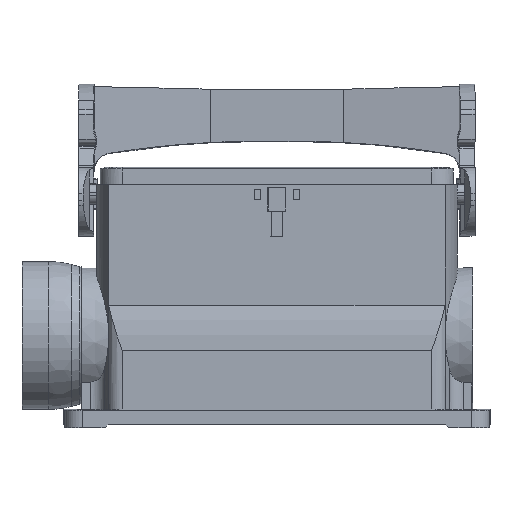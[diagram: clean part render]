
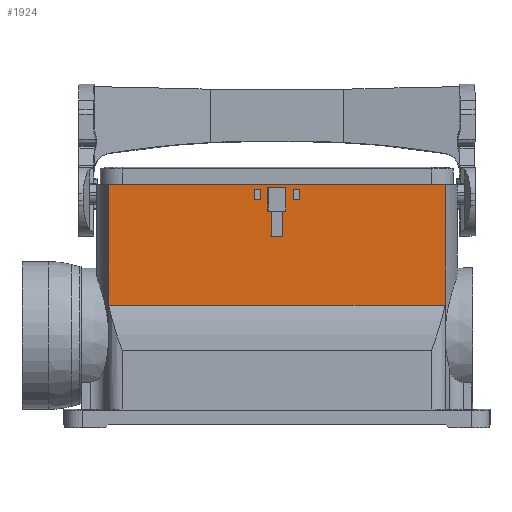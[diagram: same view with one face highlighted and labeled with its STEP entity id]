
A CAD part, front view. The second image highlights one B-rep face of the part: STEP entity #1924.
In plain terms, the highlighted planar face has unit normal (0, -1, 0).
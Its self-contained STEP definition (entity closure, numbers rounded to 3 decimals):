
#897=FACE_BOUND('',#3116,.T.);
#898=FACE_BOUND('',#3117,.T.);
#899=FACE_BOUND('',#3118,.T.);
#900=FACE_BOUND('',#3119,.T.);
#1490=PLANE('',#13459);
#1924=ADVANCED_FACE('',(#897,#898,#899,#900),#1490,.T.);
#3116=EDGE_LOOP('',(#4635,#4636,#4637,#4638));
#3117=EDGE_LOOP('',(#4639,#4640,#4641,#4642));
#3118=EDGE_LOOP('',(#4643,#4644,#4645,#4646,#4647,#4648,#4649,#4650));
#3119=EDGE_LOOP('',(#4651,#4652,#4653,#4654));
#4635=ORIENTED_EDGE('',*,*,#8828,.F.);
#4636=ORIENTED_EDGE('',*,*,#8829,.F.);
#4637=ORIENTED_EDGE('',*,*,#8830,.F.);
#4638=ORIENTED_EDGE('',*,*,#8831,.F.);
#4639=ORIENTED_EDGE('',*,*,#8832,.F.);
#4640=ORIENTED_EDGE('',*,*,#8833,.T.);
#4641=ORIENTED_EDGE('',*,*,#8834,.T.);
#4642=ORIENTED_EDGE('',*,*,#8835,.T.);
#4643=ORIENTED_EDGE('',*,*,#8836,.T.);
#4644=ORIENTED_EDGE('',*,*,#8837,.T.);
#4645=ORIENTED_EDGE('',*,*,#8838,.T.);
#4646=ORIENTED_EDGE('',*,*,#8839,.T.);
#4647=ORIENTED_EDGE('',*,*,#8840,.T.);
#4648=ORIENTED_EDGE('',*,*,#8841,.T.);
#4649=ORIENTED_EDGE('',*,*,#8842,.T.);
#4650=ORIENTED_EDGE('',*,*,#8843,.T.);
#4651=ORIENTED_EDGE('',*,*,#8844,.F.);
#4652=ORIENTED_EDGE('',*,*,#8845,.F.);
#4653=ORIENTED_EDGE('',*,*,#8846,.F.);
#4654=ORIENTED_EDGE('',*,*,#8847,.F.);
#7505=VERTEX_POINT('',#19627);
#7506=VERTEX_POINT('',#19628);
#7507=VERTEX_POINT('',#19630);
#7508=VERTEX_POINT('',#19632);
#7509=VERTEX_POINT('',#19635);
#7510=VERTEX_POINT('',#19636);
#7511=VERTEX_POINT('',#19638);
#7512=VERTEX_POINT('',#19640);
#7513=VERTEX_POINT('',#19643);
#7514=VERTEX_POINT('',#19644);
#7515=VERTEX_POINT('',#19646);
#7516=VERTEX_POINT('',#19648);
#7517=VERTEX_POINT('',#19650);
#7518=VERTEX_POINT('',#19652);
#7519=VERTEX_POINT('',#19654);
#7520=VERTEX_POINT('',#19656);
#7521=VERTEX_POINT('',#19659);
#7522=VERTEX_POINT('',#19660);
#7523=VERTEX_POINT('',#19662);
#7524=VERTEX_POINT('',#19664);
#8828=EDGE_CURVE('',#7505,#7506,#11281,.T.);
#8829=EDGE_CURVE('',#7507,#7505,#11282,.T.);
#8830=EDGE_CURVE('',#7508,#7507,#11283,.T.);
#8831=EDGE_CURVE('',#7506,#7508,#11284,.T.);
#8832=EDGE_CURVE('',#7509,#7510,#11285,.T.);
#8833=EDGE_CURVE('',#7509,#7511,#11286,.T.);
#8834=EDGE_CURVE('',#7511,#7512,#11287,.T.);
#8835=EDGE_CURVE('',#7512,#7510,#11288,.T.);
#8836=EDGE_CURVE('',#7513,#7514,#11289,.T.);
#8837=EDGE_CURVE('',#7514,#7515,#11290,.T.);
#8838=EDGE_CURVE('',#7515,#7516,#11291,.T.);
#8839=EDGE_CURVE('',#7516,#7517,#11292,.T.);
#8840=EDGE_CURVE('',#7517,#7518,#11293,.T.);
#8841=EDGE_CURVE('',#7518,#7519,#11294,.T.);
#8842=EDGE_CURVE('',#7519,#7520,#11295,.T.);
#8843=EDGE_CURVE('',#7520,#7513,#11296,.T.);
#8844=EDGE_CURVE('',#7521,#7522,#11297,.T.);
#8845=EDGE_CURVE('',#7523,#7521,#11298,.T.);
#8846=EDGE_CURVE('',#7524,#7523,#11299,.T.);
#8847=EDGE_CURVE('',#7522,#7524,#11300,.T.);
#11281=LINE('',#19626,#12279);
#11282=LINE('',#19629,#12280);
#11283=LINE('',#19631,#12281);
#11284=LINE('',#19633,#12282);
#11285=LINE('',#19634,#12283);
#11286=LINE('',#19637,#12284);
#11287=LINE('',#19639,#12285);
#11288=LINE('',#19641,#12286);
#11289=LINE('',#19642,#12287);
#11290=LINE('',#19645,#12288);
#11291=LINE('',#19647,#12289);
#11292=LINE('',#19649,#12290);
#11293=LINE('',#19651,#12291);
#11294=LINE('',#19653,#12292);
#11295=LINE('',#19655,#12293);
#11296=LINE('',#19657,#12294);
#11297=LINE('',#19658,#12295);
#11298=LINE('',#19661,#12296);
#11299=LINE('',#19663,#12297);
#11300=LINE('',#19665,#12298);
#12279=VECTOR('',#15290,1.);
#12280=VECTOR('',#15291,1.);
#12281=VECTOR('',#15292,1.);
#12282=VECTOR('',#15293,1.);
#12283=VECTOR('',#15294,1.);
#12284=VECTOR('',#15295,1.);
#12285=VECTOR('',#15296,1.);
#12286=VECTOR('',#15297,1.);
#12287=VECTOR('',#15298,1.);
#12288=VECTOR('',#15299,1.);
#12289=VECTOR('',#15300,1.);
#12290=VECTOR('',#15301,1.);
#12291=VECTOR('',#15302,1.);
#12292=VECTOR('',#15303,1.);
#12293=VECTOR('',#15304,1.);
#12294=VECTOR('',#15305,1.);
#12295=VECTOR('',#15306,1.);
#12296=VECTOR('',#15307,1.);
#12297=VECTOR('',#15308,1.);
#12298=VECTOR('',#15309,1.);
#13459=AXIS2_PLACEMENT_3D('',#19666,#15310,#15311);
#15290=DIRECTION('',(0.,0.,1.));
#15291=DIRECTION('',(1.,0.,0.));
#15292=DIRECTION('',(0.,0.,-1.));
#15293=DIRECTION('',(-1.,0.,0.));
#15294=DIRECTION('',(-1.,0.,0.));
#15295=DIRECTION('',(0.,0.,1.));
#15296=DIRECTION('',(-1.,0.,0.));
#15297=DIRECTION('',(0.,0.,-1.));
#15298=DIRECTION('',(0.017,0.,-1.));
#15299=DIRECTION('',(-1.,0.,0.));
#15300=DIRECTION('',(0.,0.,-1.));
#15301=DIRECTION('',(-1.,0.,0.));
#15302=DIRECTION('',(0.,0.,1.));
#15303=DIRECTION('',(-1.,0.,0.));
#15304=DIRECTION('',(0.017,0.,1.));
#15305=DIRECTION('',(1.,0.,0.));
#15306=DIRECTION('',(1.,0.,0.));
#15307=DIRECTION('',(0.,0.,-1.));
#15308=DIRECTION('',(-1.,0.,0.));
#15309=DIRECTION('',(0.,0.,1.));
#15310=DIRECTION('',(0.,-1.,0.));
#15311=DIRECTION('',(-1.,0.,0.));
#19626=CARTESIAN_POINT('',(-5.5,-22.5,5.7));
#19627=CARTESIAN_POINT('',(-5.5,-22.5,0.6));
#19628=CARTESIAN_POINT('',(-5.5,-22.5,4.));
#19629=CARTESIAN_POINT('',(-7.7,-22.5,0.6));
#19630=CARTESIAN_POINT('',(-7.7,-22.5,0.6));
#19631=CARTESIAN_POINT('',(-7.7,-22.5,4.));
#19632=CARTESIAN_POINT('',(-7.7,-22.5,4.));
#19633=CARTESIAN_POINT('',(-5.5,-22.5,4.));
#19634=CARTESIAN_POINT('',(56.85,-22.5,-35.001));
#19635=CARTESIAN_POINT('',(56.85,-22.5,-35.001));
#19636=CARTESIAN_POINT('',(-56.85,-22.5,-35.001));
#19637=CARTESIAN_POINT('',(56.85,-22.5,5.7));
#19638=CARTESIAN_POINT('',(56.85,-22.5,5.7));
#19639=CARTESIAN_POINT('',(0.,-22.5,5.7));
#19640=CARTESIAN_POINT('',(-56.85,-22.5,5.7));
#19641=CARTESIAN_POINT('',(-56.85,-22.5,5.7));
#19642=CARTESIAN_POINT('',(2.047,-22.5,-5.964));
#19643=CARTESIAN_POINT('',(1.86,-22.5,4.75));
#19644=CARTESIAN_POINT('',(2.001,-22.5,-3.285));
#19645=CARTESIAN_POINT('',(0.,-22.5,-3.285));
#19646=CARTESIAN_POINT('',(2.,-22.5,-3.285));
#19647=CARTESIAN_POINT('',(2.,-22.5,-6.));
#19648=CARTESIAN_POINT('',(2.,-22.5,-11.95));
#19649=CARTESIAN_POINT('',(0.,-22.5,-11.95));
#19650=CARTESIAN_POINT('',(-2.,-22.5,-11.95));
#19651=CARTESIAN_POINT('',(-2.,-22.5,-6.));
#19652=CARTESIAN_POINT('',(-2.,-22.5,-3.285));
#19653=CARTESIAN_POINT('',(0.,-22.5,-3.285));
#19654=CARTESIAN_POINT('',(-2.001,-22.5,-3.285));
#19655=CARTESIAN_POINT('',(-2.047,-22.5,-5.964));
#19656=CARTESIAN_POINT('',(-1.86,-22.5,4.75));
#19657=CARTESIAN_POINT('',(-2.,-22.5,4.75));
#19658=CARTESIAN_POINT('',(5.5,-22.5,0.6));
#19659=CARTESIAN_POINT('',(5.5,-22.5,0.6));
#19660=CARTESIAN_POINT('',(7.7,-22.5,0.6));
#19661=CARTESIAN_POINT('',(5.5,-22.5,4.));
#19662=CARTESIAN_POINT('',(5.5,-22.5,4.));
#19663=CARTESIAN_POINT('',(7.7,-22.5,4.));
#19664=CARTESIAN_POINT('',(7.7,-22.5,4.));
#19665=CARTESIAN_POINT('',(7.7,-22.5,0.6));
#19666=CARTESIAN_POINT('',(0.,-22.5,5.7));
